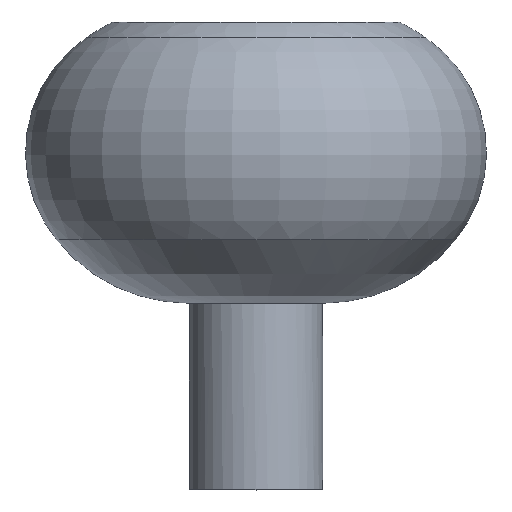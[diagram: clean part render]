
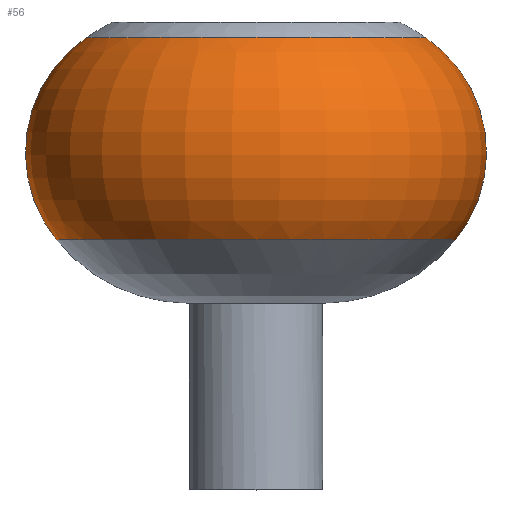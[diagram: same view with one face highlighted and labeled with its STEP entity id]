
A CAD part, top view. The second image highlights one B-rep face of the part: STEP entity #56.
In plain terms, the highlighted toroidal (fillet/blend) face has major radius 82.534 mm and minor radius 125 mm.
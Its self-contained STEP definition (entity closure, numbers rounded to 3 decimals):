
#56 = ADVANCED_FACE ( 'NONE', ( #444 ), #1688, .T. ) ;
#89 = ORIENTED_EDGE ( 'NONE', *, *, #2637, .T. ) ;
#116 = DIRECTION ( 'NONE',  ( 1., 0., 0. ) ) ;
#126 = DIRECTION ( 'NONE',  ( 1., 0., 0. ) ) ;
#167 = CARTESIAN_POINT ( 'NONE',  ( -152.861, 407.084, 0. ) ) ;
#434 = CIRCLE ( 'NONE', #645, 152.861 ) ;
#444 = FACE_OUTER_BOUND ( 'NONE', #1140, .T. ) ;
#519 = DIRECTION ( 'NONE',  ( 0., 0., -1. ) ) ;
#530 = DIRECTION ( 'NONE',  ( 0., 1., 0. ) ) ;
#551 = CIRCLE ( 'NONE', #2790, 125. ) ;
#567 = CIRCLE ( 'NONE', #2581, 125. ) ;
#645 = AXIS2_PLACEMENT_3D ( 'NONE', #2623, #956, #116 ) ;
#689 = EDGE_CURVE ( 'NONE', #1627, #2799, #567, .T. ) ;
#747 = CARTESIAN_POINT ( 'NONE',  ( 0., 225.061, 0. ) ) ;
#789 = CARTESIAN_POINT ( 'NONE',  ( 179.661, 225.061, 0. ) ) ;
#890 = DIRECTION ( 'NONE',  ( 0., 0., 1. ) ) ;
#939 = DIRECTION ( 'NONE',  ( 1., 0., 0. ) ) ;
#956 = DIRECTION ( 'NONE',  ( 0., 1., 0. ) ) ;
#1110 = ORIENTED_EDGE ( 'NONE', *, *, #2409, .T. ) ;
#1140 = EDGE_LOOP ( 'NONE', ( #1181, #89, #1110, #2391 ) ) ;
#1181 = ORIENTED_EDGE ( 'NONE', *, *, #689, .F. ) ;
#1293 = DIRECTION ( 'NONE',  ( 1., 0., 0. ) ) ;
#1436 = CARTESIAN_POINT ( 'NONE',  ( 0., 303.745, 0. ) ) ;
#1501 = CARTESIAN_POINT ( 'NONE',  ( -179.661, 225.061, 0. ) ) ;
#1627 = VERTEX_POINT ( 'NONE', #1501 ) ;
#1653 = VERTEX_POINT ( 'NONE', #789 ) ;
#1688 = TOROIDAL_SURFACE ( 'NONE', #2082, 82.534, 125. ) ;
#1743 = EDGE_CURVE ( 'NONE', #2799, #3035, #434, .T. ) ;
#2082 = AXIS2_PLACEMENT_3D ( 'NONE', #1436, #3181, #939 ) ;
#2242 = DIRECTION ( 'NONE',  ( 0., 1., 0. ) ) ;
#2300 = CARTESIAN_POINT ( 'NONE',  ( 152.861, 407.084, 0. ) ) ;
#2391 = ORIENTED_EDGE ( 'NONE', *, *, #1743, .F. ) ;
#2409 = EDGE_CURVE ( 'NONE', #1653, #3035, #551, .T. ) ;
#2581 = AXIS2_PLACEMENT_3D ( 'NONE', #2865, #519, #2242 ) ;
#2623 = CARTESIAN_POINT ( 'NONE',  ( 0., 407.084, 0. ) ) ;
#2637 = EDGE_CURVE ( 'NONE', #1627, #1653, #3081, .T. ) ;
#2790 = AXIS2_PLACEMENT_3D ( 'NONE', #3134, #890, #126 ) ;
#2799 = VERTEX_POINT ( 'NONE', #167 ) ;
#2865 = CARTESIAN_POINT ( 'NONE',  ( -82.534, 303.745, 0. ) ) ;
#2924 = AXIS2_PLACEMENT_3D ( 'NONE', #747, #530, #1293 ) ;
#3035 = VERTEX_POINT ( 'NONE', #2300 ) ;
#3081 = CIRCLE ( 'NONE', #2924, 179.661 ) ;
#3134 = CARTESIAN_POINT ( 'NONE',  ( 82.534, 303.745, 0. ) ) ;
#3181 = DIRECTION ( 'NONE',  ( 0., 1., 0. ) ) ;
